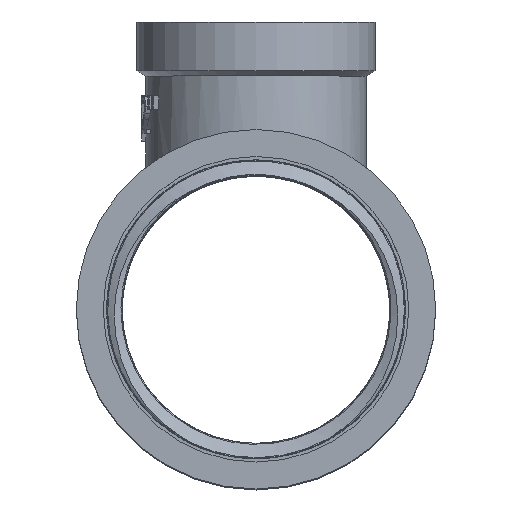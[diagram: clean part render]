
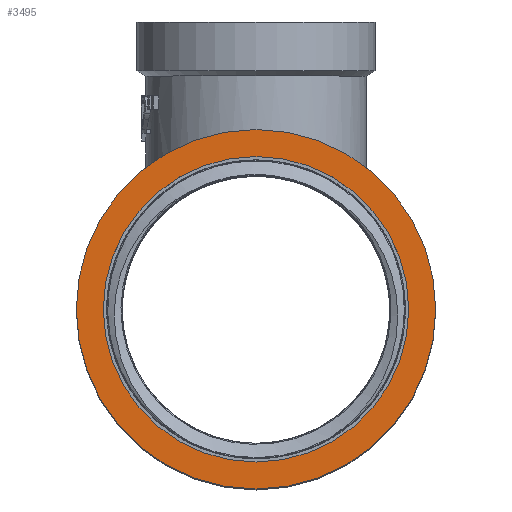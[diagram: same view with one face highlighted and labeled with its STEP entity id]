
A CAD part, top view. The second image highlights one B-rep face of the part: STEP entity #3495.
In plain terms, the highlighted planar face has unit normal (0, 0, 1).
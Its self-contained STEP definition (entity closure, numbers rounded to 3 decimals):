
#142=PLANE('',#3832);
#290=FACE_OUTER_BOUND('',#715,.T.);
#492=CIRCLE('',#3830,20.);
#493=CIRCLE('',#3831,20.);
#494=CIRCLE('',#3833,17.);
#495=CIRCLE('',#3834,17.);
#556=FACE_BOUND('',#716,.T.);
#715=EDGE_LOOP('',(#2949,#2950));
#716=EDGE_LOOP('',(#2951,#2952));
#1628=VERTEX_POINT('',#6270);
#1629=VERTEX_POINT('',#6271);
#1630=VERTEX_POINT('',#6276);
#1631=VERTEX_POINT('',#6277);
#2095=EDGE_CURVE('',#1628,#1629,#492,.T.);
#2096=EDGE_CURVE('',#1629,#1628,#493,.T.);
#2098=EDGE_CURVE('',#1630,#1631,#494,.T.);
#2099=EDGE_CURVE('',#1631,#1630,#495,.T.);
#2949=ORIENTED_EDGE('',*,*,#2095,.T.);
#2950=ORIENTED_EDGE('',*,*,#2096,.T.);
#2951=ORIENTED_EDGE('',*,*,#2098,.F.);
#2952=ORIENTED_EDGE('',*,*,#2099,.F.);
#3495=ADVANCED_FACE('',(#290,#556),#142,.T.);
#3830=AXIS2_PLACEMENT_3D('',#6272,#4579,#4580);
#3831=AXIS2_PLACEMENT_3D('',#6273,#4581,#4582);
#3832=AXIS2_PLACEMENT_3D('',#6275,#4584,#4585);
#3833=AXIS2_PLACEMENT_3D('',#6278,#4586,#4587);
#3834=AXIS2_PLACEMENT_3D('',#6279,#4588,#4589);
#4579=DIRECTION('center_axis',(0.,0.,1.));
#4580=DIRECTION('ref_axis',(1.,0.,0.));
#4581=DIRECTION('center_axis',(0.,0.,1.));
#4582=DIRECTION('ref_axis',(1.,0.,0.));
#4584=DIRECTION('center_axis',(0.,0.,1.));
#4585=DIRECTION('ref_axis',(1.,0.,0.));
#4586=DIRECTION('center_axis',(0.,0.,1.));
#4587=DIRECTION('ref_axis',(1.,0.,0.));
#4588=DIRECTION('center_axis',(0.,0.,1.));
#4589=DIRECTION('ref_axis',(1.,0.,0.));
#6270=CARTESIAN_POINT('',(0.,-20.,31.75));
#6271=CARTESIAN_POINT('',(0.,20.,31.75));
#6272=CARTESIAN_POINT('Origin',(0.,0.,31.75));
#6273=CARTESIAN_POINT('Origin',(0.,0.,31.75));
#6275=CARTESIAN_POINT('Origin',(0.,-17.,31.75));
#6276=CARTESIAN_POINT('',(0.,-17.,31.75));
#6277=CARTESIAN_POINT('',(0.,17.,31.75));
#6278=CARTESIAN_POINT('Origin',(0.,0.,31.75));
#6279=CARTESIAN_POINT('Origin',(0.,0.,31.75));
